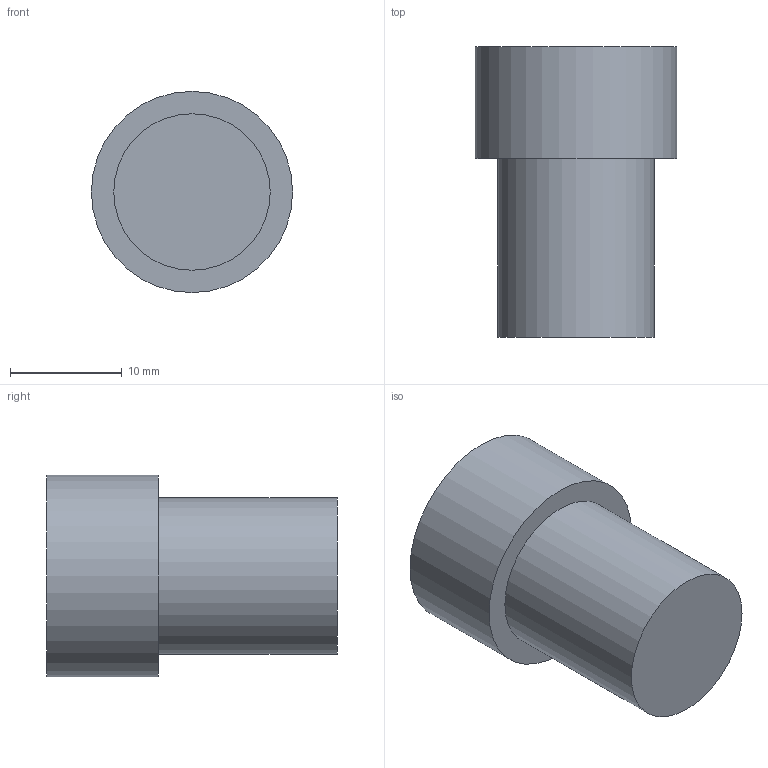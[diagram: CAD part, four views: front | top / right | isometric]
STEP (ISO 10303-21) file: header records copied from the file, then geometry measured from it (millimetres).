
FILE_DESCRIPTION(('Open CASCADE Model'),'2;1');
FILE_NAME('Open CASCADE Shape Model','2026-10-16T02:10:56',('Author'),( 'Open CASCADE'),'Open CASCADE STEP processor 7.9','Open CASCADE 7.9' ,'Unknown');
FILE_SCHEMA(('AUTOMOTIVE_DESIGN { 1 0 10303 214 1 1 1 1 }'));
Length unit declared in the file: millimetre
Products named in the file (1): Open CASCADE STEP translator 7.9 11
Bounding box: 18 x 26 x 18 mm (x, y, z)
Volume: 5007.7 mm3; surface area: 1778.1 mm2
Topology: 1 solids, 1 shells, 5 faces, 6 edges, 4 vertices
Faces by surface type: plane 3, cylinder 2
Full cylindrical faces by diameter (mm): 14 x1, 18 x1
Entity records: 192 total; most frequent: DIRECTION 34, CARTESIAN_POINT 28, ORIENTED_EDGE 12, PCURVE 12, DEFINITIONAL_REPRESENTATION 12, AXIS2_PLACEMENT_3D 10, LINE 10, VECTOR 10
